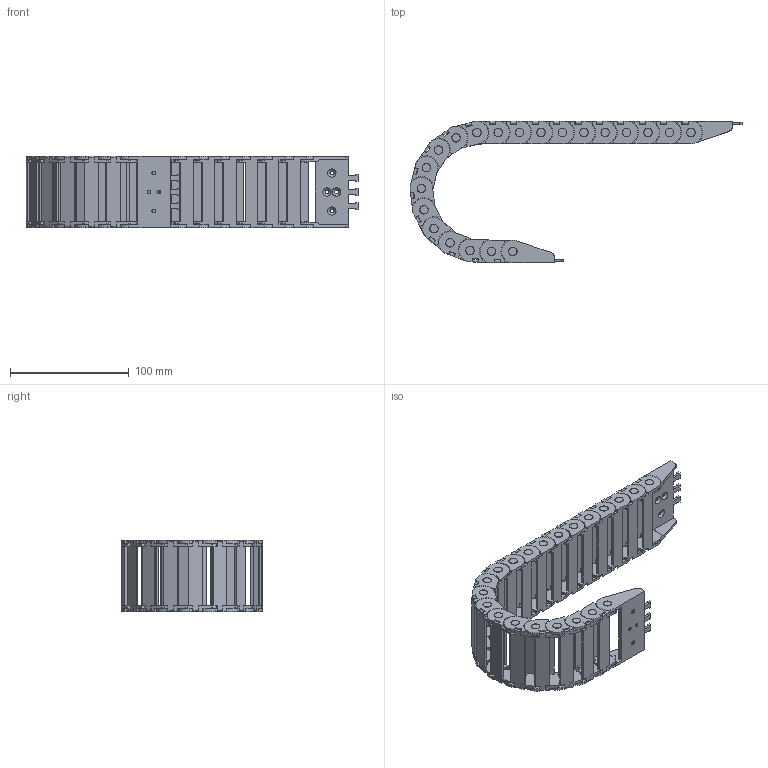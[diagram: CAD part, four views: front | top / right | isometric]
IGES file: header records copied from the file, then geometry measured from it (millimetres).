
Global section: file name: No Iges File Name specified; native system: Autodesk Inventor 2012; preprocessor: AutoDesk Inventor Iges Exporter R2012; author: cho; date: 20151015.235547; units: millimetre
Bounding box: 279.22 x 119.01 x 60.4 mm (x, y, z)
Volume: 118424.9 mm3; surface area: 126865.5 mm2
Topology: 42 solids, 42 shells, 1654 faces, 4586 edges, 3058 vertices
Faces by surface type: plane 1164, cylinder 330, revolution 160
Full cylindrical faces by diameter (mm): 7 x40, 7.2 x2
